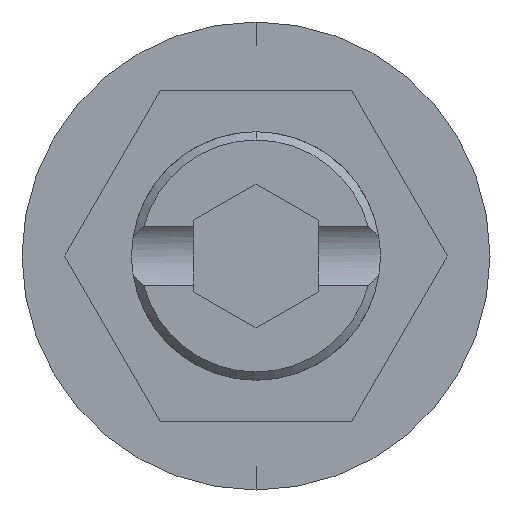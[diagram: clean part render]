
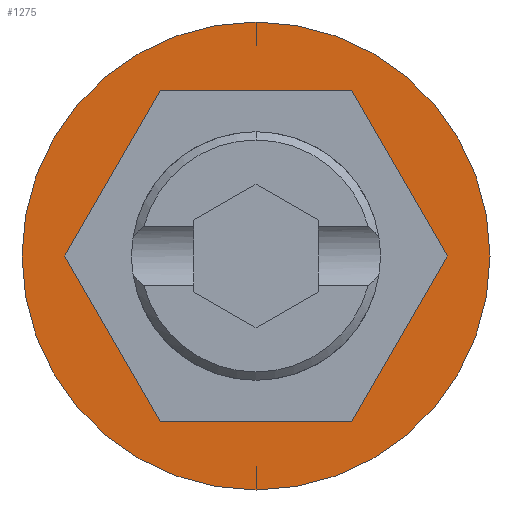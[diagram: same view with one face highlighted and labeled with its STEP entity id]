
A CAD part, front view. The second image highlights one B-rep face of the part: STEP entity #1275.
In plain terms, the highlighted planar face has unit normal (0, -1, 0).
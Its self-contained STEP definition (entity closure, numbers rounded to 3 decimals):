
#96 = ORIENTED_EDGE ( 'NONE', *, *, #1751, .T. ) ;
#139 = EDGE_CURVE ( 'NONE', #602, #3179, #1814, .T. ) ;
#247 = ORIENTED_EDGE ( 'NONE', *, *, #831, .F. ) ;
#266 = EDGE_CURVE ( 'NONE', #2367, #1987, #2796, .T. ) ;
#316 = VECTOR ( 'NONE', #845, 1000. ) ;
#457 = EDGE_LOOP ( 'NONE', ( #96, #2843 ) ) ;
#475 = CARTESIAN_POINT ( 'NONE',  ( -2.309, 0., 4. ) ) ;
#572 = DIRECTION ( 'NONE',  ( 0., -1., 0. ) ) ;
#602 = VERTEX_POINT ( 'NONE', #2994 ) ;
#685 = VECTOR ( 'NONE', #3525, 1000. ) ;
#717 = DIRECTION ( 'NONE',  ( 0., 0., -1. ) ) ;
#729 = DIRECTION ( 'NONE',  ( 0., -1., 0. ) ) ;
#735 = CARTESIAN_POINT ( 'NONE',  ( 0., 0., 0. ) ) ;
#791 = DIRECTION ( 'NONE',  ( -0.5, 0., -0.866 ) ) ;
#831 = EDGE_CURVE ( 'NONE', #2188, #1730, #1347, .T. ) ;
#840 = EDGE_LOOP ( 'NONE', ( #4006, #247, #3421, #3237, #1959, #1673 ) ) ;
#845 = DIRECTION ( 'NONE',  ( 1., 0., 0. ) ) ;
#947 = CARTESIAN_POINT ( 'NONE',  ( 0., 0., 0. ) ) ;
#1029 = CARTESIAN_POINT ( 'NONE',  ( -4.619, 0., 0. ) ) ;
#1166 = EDGE_CURVE ( 'NONE', #3179, #2412, #3916, .T. ) ;
#1170 = PLANE ( 'NONE',  #2672 ) ;
#1196 = DIRECTION ( 'NONE',  ( 0., -1., 0. ) ) ;
#1199 = CIRCLE ( 'NONE', #2147, 5.65 ) ;
#1205 = AXIS2_PLACEMENT_3D ( 'NONE', #735, #729, #717 ) ;
#1275 = ADVANCED_FACE ( 'NONE', ( #2941, #2097 ), #1170, .T. ) ;
#1347 = LINE ( 'NONE', #1029, #2819 ) ;
#1477 = CARTESIAN_POINT ( 'NONE',  ( -4.619, 0., 0. ) ) ;
#1515 = CARTESIAN_POINT ( 'NONE',  ( 0., 0., 5.65 ) ) ;
#1539 = CARTESIAN_POINT ( 'NONE',  ( 0., 0., -5.65 ) ) ;
#1599 = DIRECTION ( 'NONE',  ( 0.5, 0., 0.866 ) ) ;
#1639 = LINE ( 'NONE', #3728, #3208 ) ;
#1673 = ORIENTED_EDGE ( 'NONE', *, *, #2037, .F. ) ;
#1730 = VERTEX_POINT ( 'NONE', #3054 ) ;
#1751 = EDGE_CURVE ( 'NONE', #1987, #2367, #1199, .T. ) ;
#1785 = CARTESIAN_POINT ( 'NONE',  ( -2.309, 0., -4. ) ) ;
#1814 = LINE ( 'NONE', #3768, #685 ) ;
#1959 = ORIENTED_EDGE ( 'NONE', *, *, #139, .F. ) ;
#1987 = VERTEX_POINT ( 'NONE', #1539 ) ;
#2037 = EDGE_CURVE ( 'NONE', #2629, #602, #1639, .T. ) ;
#2097 = FACE_OUTER_BOUND ( 'NONE', #457, .T. ) ;
#2147 = AXIS2_PLACEMENT_3D ( 'NONE', #2433, #572, #2765 ) ;
#2188 = VERTEX_POINT ( 'NONE', #1477 ) ;
#2283 = VECTOR ( 'NONE', #3437, 1000. ) ;
#2367 = VERTEX_POINT ( 'NONE', #1515 ) ;
#2412 = VERTEX_POINT ( 'NONE', #3099 ) ;
#2433 = CARTESIAN_POINT ( 'NONE',  ( 0., 0., 0. ) ) ;
#2629 = VERTEX_POINT ( 'NONE', #2863 ) ;
#2672 = AXIS2_PLACEMENT_3D ( 'NONE', #947, #1196, #3471 ) ;
#2732 = LINE ( 'NONE', #1785, #316 ) ;
#2765 = DIRECTION ( 'NONE',  ( 0., 0., -1. ) ) ;
#2796 = CIRCLE ( 'NONE', #1205, 5.65 ) ;
#2819 = VECTOR ( 'NONE', #3117, 1000. ) ;
#2843 = ORIENTED_EDGE ( 'NONE', *, *, #266, .T. ) ;
#2863 = CARTESIAN_POINT ( 'NONE',  ( 2.309, 0., -4. ) ) ;
#2941 = FACE_BOUND ( 'NONE', #840, .T. ) ;
#2994 = CARTESIAN_POINT ( 'NONE',  ( 4.619, 0., 0. ) ) ;
#3054 = CARTESIAN_POINT ( 'NONE',  ( -2.309, 0., -4. ) ) ;
#3099 = CARTESIAN_POINT ( 'NONE',  ( -2.309, 0., 4. ) ) ;
#3110 = VECTOR ( 'NONE', #791, 1000. ) ;
#3117 = DIRECTION ( 'NONE',  ( 0.5, 0., -0.866 ) ) ;
#3136 = EDGE_CURVE ( 'NONE', #2412, #2188, #3202, .T. ) ;
#3179 = VERTEX_POINT ( 'NONE', #3883 ) ;
#3202 = LINE ( 'NONE', #475, #3110 ) ;
#3208 = VECTOR ( 'NONE', #1599, 1000. ) ;
#3237 = ORIENTED_EDGE ( 'NONE', *, *, #1166, .F. ) ;
#3411 = EDGE_CURVE ( 'NONE', #1730, #2629, #2732, .T. ) ;
#3421 = ORIENTED_EDGE ( 'NONE', *, *, #3136, .F. ) ;
#3437 = DIRECTION ( 'NONE',  ( -1., 0., 0. ) ) ;
#3471 = DIRECTION ( 'NONE',  ( 0., 0., -1. ) ) ;
#3525 = DIRECTION ( 'NONE',  ( -0.5, 0., 0.866 ) ) ;
#3663 = CARTESIAN_POINT ( 'NONE',  ( 2.309, 0., 4. ) ) ;
#3728 = CARTESIAN_POINT ( 'NONE',  ( 2.309, 0., -4. ) ) ;
#3768 = CARTESIAN_POINT ( 'NONE',  ( 4.619, 0., 0. ) ) ;
#3883 = CARTESIAN_POINT ( 'NONE',  ( 2.309, 0., 4. ) ) ;
#3916 = LINE ( 'NONE', #3663, #2283 ) ;
#4006 = ORIENTED_EDGE ( 'NONE', *, *, #3411, .F. ) ;
